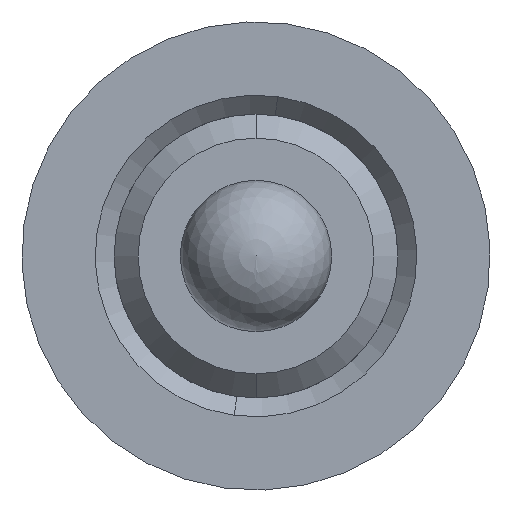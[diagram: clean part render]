
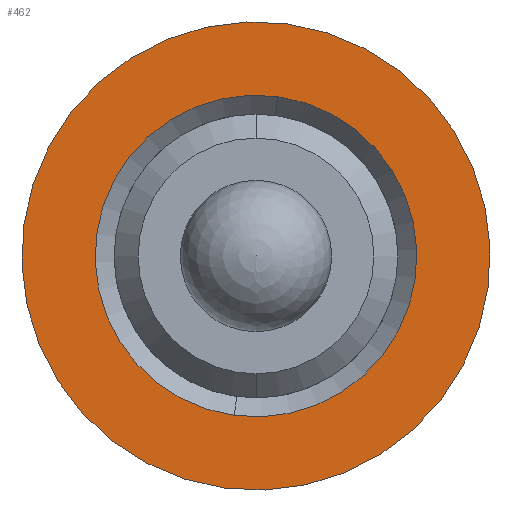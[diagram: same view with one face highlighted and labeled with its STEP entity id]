
A CAD part, left-side view. The second image highlights one B-rep face of the part: STEP entity #462.
In plain terms, the highlighted planar face has unit normal (-1, 0, 0).
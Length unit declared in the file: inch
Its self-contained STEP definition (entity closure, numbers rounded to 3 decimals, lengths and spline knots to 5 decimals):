
#43 = AXIS2_PLACEMENT_3D ( 'NONE', #1485, #747, #1491 ) ;
#93 = AXIS2_PLACEMENT_3D ( 'NONE', #519, #592, #1060 ) ;
#98 = EDGE_LOOP ( 'NONE', ( #1133, #1156 ) ) ;
#152 = DIRECTION ( 'NONE',  ( 0., -0.991, -0.135 ) ) ;
#330 = VERTEX_POINT ( 'NONE', #741 ) ;
#446 = EDGE_CURVE ( 'NONE', #1014, #634, #1136, .T. ) ;
#462 = ADVANCED_FACE ( 'NONE', ( #682, #1373 ), #496, .F. ) ;
#478 = VERTEX_POINT ( 'NONE', #1240 ) ;
#495 = DIRECTION ( 'NONE',  ( 0., 0.991, 0.135 ) ) ;
#496 = PLANE ( 'NONE',  #43 ) ;
#499 = CARTESIAN_POINT ( 'NONE',  ( 0.07776, 0.45595, 0.84749 ) ) ;
#503 = DIRECTION ( 'NONE',  ( 1., 0., 0. ) ) ;
#519 = CARTESIAN_POINT ( 'NONE',  ( 0.07776, 0.45595, 0.84749 ) ) ;
#532 = AXIS2_PLACEMENT_3D ( 'NONE', #1403, #584, #152 ) ;
#567 = ORIENTED_EDGE ( 'NONE', *, *, #446, .T. ) ;
#579 = EDGE_CURVE ( 'NONE', #478, #330, #729, .T. ) ;
#584 = DIRECTION ( 'NONE',  ( -1., 0., 0. ) ) ;
#586 = EDGE_CURVE ( 'NONE', #330, #478, #1065, .T. ) ;
#592 = DIRECTION ( 'NONE',  ( 1., 0., 0. ) ) ;
#607 = ORIENTED_EDGE ( 'NONE', *, *, #775, .T. ) ;
#614 = AXIS2_PLACEMENT_3D ( 'NONE', #1289, #1291, #1294 ) ;
#634 = VERTEX_POINT ( 'NONE', #758 ) ;
#682 = FACE_BOUND ( 'NONE', #753, .T. ) ;
#729 = CIRCLE ( 'NONE', #532, 0.09744 ) ;
#741 = CARTESIAN_POINT ( 'NONE',  ( 0.07776, 0.3594, 0.83433 ) ) ;
#747 = DIRECTION ( 'NONE',  ( 1., 0., 0. ) ) ;
#753 = EDGE_LOOP ( 'NONE', ( #607, #567 ) ) ;
#758 = CARTESIAN_POINT ( 'NONE',  ( 0.07776, 0.44691, 0.91381 ) ) ;
#775 = EDGE_CURVE ( 'NONE', #634, #1014, #847, .T. ) ;
#847 = CIRCLE ( 'NONE', #93, 0.06693 ) ;
#977 = AXIS2_PLACEMENT_3D ( 'NONE', #499, #503, #495 ) ;
#1014 = VERTEX_POINT ( 'NONE', #1360 ) ;
#1060 = DIRECTION ( 'NONE',  ( 0., 0.991, 0.135 ) ) ;
#1065 = CIRCLE ( 'NONE', #614, 0.09744 ) ;
#1133 = ORIENTED_EDGE ( 'NONE', *, *, #586, .T. ) ;
#1136 = CIRCLE ( 'NONE', #977, 0.06693 ) ;
#1156 = ORIENTED_EDGE ( 'NONE', *, *, #579, .T. ) ;
#1240 = CARTESIAN_POINT ( 'NONE',  ( 0.07776, 0.5525, 0.86065 ) ) ;
#1289 = CARTESIAN_POINT ( 'NONE',  ( 0.07776, 0.45595, 0.84749 ) ) ;
#1291 = DIRECTION ( 'NONE',  ( -1., 0., 0. ) ) ;
#1294 = DIRECTION ( 'NONE',  ( 0., -0.991, -0.135 ) ) ;
#1360 = CARTESIAN_POINT ( 'NONE',  ( 0.07776, 0.46499, 0.78117 ) ) ;
#1373 = FACE_OUTER_BOUND ( 'NONE', #98, .T. ) ;
#1403 = CARTESIAN_POINT ( 'NONE',  ( 0.07776, 0.45595, 0.84749 ) ) ;
#1485 = CARTESIAN_POINT ( 'NONE',  ( 0.07776, 0.5525, 0.86065 ) ) ;
#1491 = DIRECTION ( 'NONE',  ( 0., 0.991, 0.135 ) ) ;
